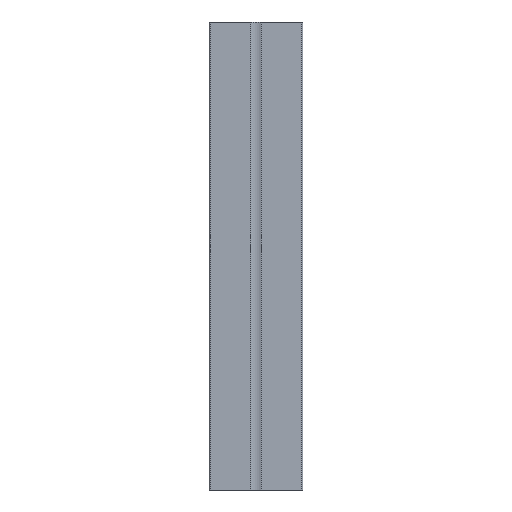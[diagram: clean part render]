
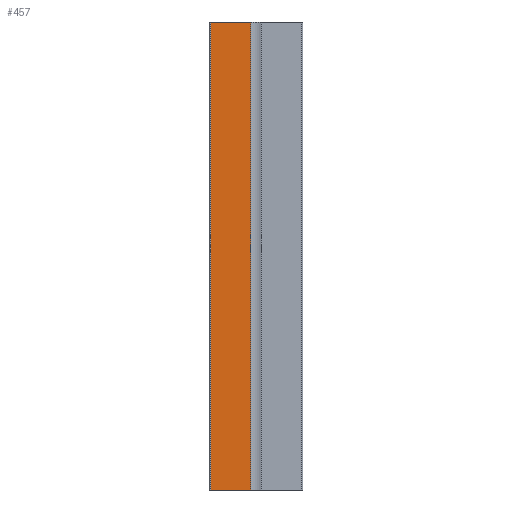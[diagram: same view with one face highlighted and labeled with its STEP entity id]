
A CAD part, front view. The second image highlights one B-rep face of the part: STEP entity #457.
In plain terms, the highlighted planar face has unit normal (0, -1, 0).
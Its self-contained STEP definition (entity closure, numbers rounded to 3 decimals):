
#48 = ORIENTED_EDGE ( 'NONE', *, *, #1250, .T. ) ;
#134 = CARTESIAN_POINT ( 'NONE',  ( -29.002, -7.241, 150. ) ) ;
#271 = ORIENTED_EDGE ( 'NONE', *, *, #290, .F. ) ;
#290 = EDGE_CURVE ( 'NONE', #842, #945, #316, .T. ) ;
#316 = LINE ( 'NONE', #1574, #1159 ) ;
#457 = ADVANCED_FACE ( 'NONE', ( #1017 ), #632, .F. ) ;
#488 = CARTESIAN_POINT ( 'NONE',  ( -29.002, -7.241, 150. ) ) ;
#521 = DIRECTION ( 'NONE',  ( 0., 1., 0. ) ) ;
#562 = CARTESIAN_POINT ( 'NONE',  ( -3.252, -7.249, 150. ) ) ;
#623 = VERTEX_POINT ( 'NONE', #794 ) ;
#632 = PLANE ( 'NONE',  #1031 ) ;
#687 = DIRECTION ( 'NONE',  ( 0., 0., -1. ) ) ;
#712 = EDGE_CURVE ( 'NONE', #945, #623, #1581, .T. ) ;
#794 = CARTESIAN_POINT ( 'NONE',  ( -3.252, -7.249, -150. ) ) ;
#814 = CARTESIAN_POINT ( 'NONE',  ( -29.002, -7.241, -150. ) ) ;
#842 = VERTEX_POINT ( 'NONE', #134 ) ;
#855 = ORIENTED_EDGE ( 'NONE', *, *, #712, .F. ) ;
#945 = VERTEX_POINT ( 'NONE', #1378 ) ;
#1017 = FACE_OUTER_BOUND ( 'NONE', #1079, .T. ) ;
#1031 = AXIS2_PLACEMENT_3D ( 'NONE', #488, #521, #1073 ) ;
#1073 = DIRECTION ( 'NONE',  ( -1., 0., 0. ) ) ;
#1079 = EDGE_LOOP ( 'NONE', ( #48, #855, #271, #1718 ) ) ;
#1085 = VERTEX_POINT ( 'NONE', #814 ) ;
#1107 = DIRECTION ( 'NONE',  ( 1., 0., 0. ) ) ;
#1142 = DIRECTION ( 'NONE',  ( 0., 0., -1. ) ) ;
#1145 = CARTESIAN_POINT ( 'NONE',  ( -29.002, -7.241, -150. ) ) ;
#1158 = LINE ( 'NONE', #1145, #1559 ) ;
#1159 = VECTOR ( 'NONE', #1363, 1000. ) ;
#1215 = VECTOR ( 'NONE', #1142, 1000. ) ;
#1250 = EDGE_CURVE ( 'NONE', #1085, #623, #1158, .T. ) ;
#1327 = CARTESIAN_POINT ( 'NONE',  ( -29.002, -7.241, 150. ) ) ;
#1349 = VECTOR ( 'NONE', #687, 1000. ) ;
#1363 = DIRECTION ( 'NONE',  ( 1., 0., 0. ) ) ;
#1378 = CARTESIAN_POINT ( 'NONE',  ( -3.252, -7.249, 150. ) ) ;
#1500 = LINE ( 'NONE', #1327, #1215 ) ;
#1559 = VECTOR ( 'NONE', #1107, 1000. ) ;
#1574 = CARTESIAN_POINT ( 'NONE',  ( -29.002, -7.241, 150. ) ) ;
#1581 = LINE ( 'NONE', #562, #1349 ) ;
#1687 = EDGE_CURVE ( 'NONE', #842, #1085, #1500, .T. ) ;
#1718 = ORIENTED_EDGE ( 'NONE', *, *, #1687, .T. ) ;
